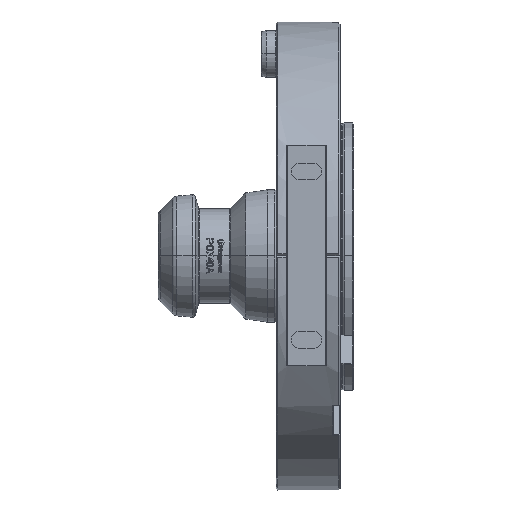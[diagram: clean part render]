
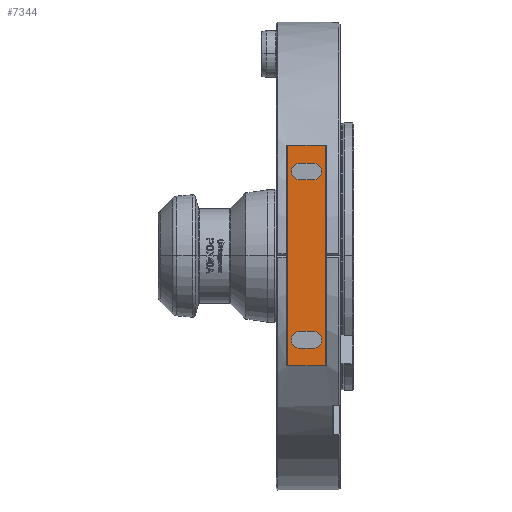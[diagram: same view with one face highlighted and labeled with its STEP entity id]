
A CAD part, top view. The second image highlights one B-rep face of the part: STEP entity #7344.
In plain terms, the highlighted planar face has unit normal (0, 0, 1).
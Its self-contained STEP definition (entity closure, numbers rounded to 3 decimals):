
#163 = ORIENTED_EDGE ( 'NONE', *, *, #14662, .F. ) ;
#318 = EDGE_CURVE ( 'NONE', #1012, #5418, #8596, .T. ) ;
#445 = DIRECTION ( 'NONE',  ( 1., 0., 0. ) ) ;
#918 = EDGE_CURVE ( 'NONE', #2276, #22698, #24420, .T. ) ;
#1012 = VERTEX_POINT ( 'NONE', #17600 ) ;
#1050 = CIRCLE ( 'NONE', #3445, 2.5 ) ;
#1773 = VECTOR ( 'NONE', #4809, 1000. ) ;
#2231 = ORIENTED_EDGE ( 'NONE', *, *, #17161, .F. ) ;
#2276 = VERTEX_POINT ( 'NONE', #12873 ) ;
#2392 = EDGE_CURVE ( 'NONE', #11651, #21416, #8613, .T. ) ;
#2682 = VERTEX_POINT ( 'NONE', #21955 ) ;
#3042 = VERTEX_POINT ( 'NONE', #16586 ) ;
#3367 = CARTESIAN_POINT ( 'NONE',  ( 13.5, 25., 61.3 ) ) ;
#3445 = AXIS2_PLACEMENT_3D ( 'NONE', #23463, #10343, #8096 ) ;
#3548 = EDGE_CURVE ( 'NONE', #23600, #3042, #22952, .T. ) ;
#4285 = ORIENTED_EDGE ( 'NONE', *, *, #20661, .F. ) ;
#4316 = DIRECTION ( 'NONE',  ( -1., 0., 0. ) ) ;
#4809 = DIRECTION ( 'NONE',  ( -1., 0., 0. ) ) ;
#4859 = CIRCLE ( 'NONE', #7635, 2.5 ) ;
#4930 = CARTESIAN_POINT ( 'NONE',  ( 7., -22.5, 61.3 ) ) ;
#5021 = DIRECTION ( 'NONE',  ( -1., 0., 0. ) ) ;
#5141 = CARTESIAN_POINT ( 'NONE',  ( -13.67, -32.75, 61.3 ) ) ;
#5418 = VERTEX_POINT ( 'NONE', #10217 ) ;
#5508 = DIRECTION ( 'NONE',  ( -1., 0., 0. ) ) ;
#5645 = VERTEX_POINT ( 'NONE', #13399 ) ;
#5669 = DIRECTION ( 'NONE',  ( 1., 0., 0. ) ) ;
#5882 = AXIS2_PLACEMENT_3D ( 'NONE', #20295, #7121, #22388 ) ;
#5898 = DIRECTION ( 'NONE',  ( -1., 0., 0. ) ) ;
#5978 = CARTESIAN_POINT ( 'NONE',  ( 14.6, -69.5, 61.3 ) ) ;
#6095 = AXIS2_PLACEMENT_3D ( 'NONE', #16836, #7906, #15236 ) ;
#6383 = EDGE_CURVE ( 'NONE', #5645, #2682, #13963, .T. ) ;
#6602 = EDGE_CURVE ( 'NONE', #21800, #15246, #4859, .T. ) ;
#7121 = DIRECTION ( 'NONE',  ( 0., 0., 1. ) ) ;
#7152 = LINE ( 'NONE', #4930, #1773 ) ;
#7344 = ADVANCED_FACE ( 'NONE', ( #12212, #15947, #11856 ), #8388, .F. ) ;
#7411 = VECTOR ( 'NONE', #10993, 1000. ) ;
#7443 = CARTESIAN_POINT ( 'NONE',  ( 3.4, -69.5, 61.3 ) ) ;
#7520 = CARTESIAN_POINT ( 'NONE',  ( 14.6, -32.75, 61.3 ) ) ;
#7581 = VECTOR ( 'NONE', #13525, 1000. ) ;
#7635 = AXIS2_PLACEMENT_3D ( 'NONE', #20669, #17177, #5898 ) ;
#7906 = DIRECTION ( 'NONE',  ( 0., 0., 1. ) ) ;
#8096 = DIRECTION ( 'NONE',  ( 1., 0., 0. ) ) ;
#8388 = PLANE ( 'NONE',  #17985 ) ;
#8434 = EDGE_CURVE ( 'NONE', #5418, #21800, #21143, .T. ) ;
#8585 = CARTESIAN_POINT ( 'NONE',  ( 7., -22.5, 61.3 ) ) ;
#8596 = LINE ( 'NONE', #20149, #21409 ) ;
#8613 = LINE ( 'NONE', #22018, #20241 ) ;
#9497 = ORIENTED_EDGE ( 'NONE', *, *, #13533, .F. ) ;
#9623 = EDGE_CURVE ( 'NONE', #15246, #11846, #7152, .T. ) ;
#9720 = EDGE_LOOP ( 'NONE', ( #20110, #9497, #24283, #13041 ) ) ;
#10217 = CARTESIAN_POINT ( 'NONE',  ( 11., -27.5, 61.3 ) ) ;
#10343 = DIRECTION ( 'NONE',  ( 0., 0., 1. ) ) ;
#10834 = ORIENTED_EDGE ( 'NONE', *, *, #318, .F. ) ;
#10993 = DIRECTION ( 'NONE',  ( 1., 0., 0. ) ) ;
#11222 = EDGE_LOOP ( 'NONE', ( #13572, #19846, #20952, #2231, #163 ) ) ;
#11564 = VECTOR ( 'NONE', #445, 1000. ) ;
#11596 = CARTESIAN_POINT ( 'NONE',  ( 7., 25., 61.3 ) ) ;
#11651 = VERTEX_POINT ( 'NONE', #23216 ) ;
#11846 = VERTEX_POINT ( 'NONE', #8585 ) ;
#11856 = FACE_OUTER_BOUND ( 'NONE', #9720, .T. ) ;
#12192 = CIRCLE ( 'NONE', #5882, 2.5 ) ;
#12212 = FACE_BOUND ( 'NONE', #11222, .T. ) ;
#12242 = EDGE_CURVE ( 'NONE', #21416, #5645, #14511, .T. ) ;
#12873 = CARTESIAN_POINT ( 'NONE',  ( 3.4, -32.75, 61.3 ) ) ;
#13041 = ORIENTED_EDGE ( 'NONE', *, *, #19853, .F. ) ;
#13399 = CARTESIAN_POINT ( 'NONE',  ( 7., 22.5, 61.3 ) ) ;
#13525 = DIRECTION ( 'NONE',  ( 0., 1., 0. ) ) ;
#13533 = EDGE_CURVE ( 'NONE', #22698, #3042, #22282, .T. ) ;
#13572 = ORIENTED_EDGE ( 'NONE', *, *, #6383, .F. ) ;
#13724 = CARTESIAN_POINT ( 'NONE',  ( 3.4, -69.5, 61.3 ) ) ;
#13963 = LINE ( 'NONE', #21531, #11564 ) ;
#14077 = CARTESIAN_POINT ( 'NONE',  ( 11., -22.5, 61.3 ) ) ;
#14511 = CIRCLE ( 'NONE', #22039, 2.5 ) ;
#14662 = EDGE_CURVE ( 'NONE', #2682, #20946, #12192, .T. ) ;
#14993 = CARTESIAN_POINT ( 'NONE',  ( 7., -25., 61.3 ) ) ;
#15035 = ORIENTED_EDGE ( 'NONE', *, *, #9623, .F. ) ;
#15236 = DIRECTION ( 'NONE',  ( -1., 0., 0. ) ) ;
#15246 = VERTEX_POINT ( 'NONE', #14077 ) ;
#15704 = VECTOR ( 'NONE', #5508, 1000. ) ;
#15775 = CARTESIAN_POINT ( 'NONE',  ( 3.4, 32.75, 61.3 ) ) ;
#15947 = FACE_BOUND ( 'NONE', #21134, .T. ) ;
#16586 = CARTESIAN_POINT ( 'NONE',  ( 14.6, 32.75, 61.3 ) ) ;
#16691 = CARTESIAN_POINT ( 'NONE',  ( 13.5, -25., 61.3 ) ) ;
#16722 = DIRECTION ( 'NONE',  ( -1., 0., 0. ) ) ;
#16836 = CARTESIAN_POINT ( 'NONE',  ( 11., -25., 61.3 ) ) ;
#17161 = EDGE_CURVE ( 'NONE', #20946, #11651, #1050, .T. ) ;
#17177 = DIRECTION ( 'NONE',  ( 0., 0., 1. ) ) ;
#17600 = CARTESIAN_POINT ( 'NONE',  ( 7., -27.5, 61.3 ) ) ;
#17985 = AXIS2_PLACEMENT_3D ( 'NONE', #13724, #21290, #4316 ) ;
#18449 = CARTESIAN_POINT ( 'NONE',  ( -13.67, 32.75, 61.3 ) ) ;
#18539 = DIRECTION ( 'NONE',  ( 1., 0., 0. ) ) ;
#19191 = DIRECTION ( 'NONE',  ( 0., 0., 1. ) ) ;
#19846 = ORIENTED_EDGE ( 'NONE', *, *, #12242, .F. ) ;
#19853 = EDGE_CURVE ( 'NONE', #23600, #2276, #22500, .T. ) ;
#20110 = ORIENTED_EDGE ( 'NONE', *, *, #3548, .T. ) ;
#20149 = CARTESIAN_POINT ( 'NONE',  ( 7., -27.5, 61.3 ) ) ;
#20241 = VECTOR ( 'NONE', #5021, 1000. ) ;
#20295 = CARTESIAN_POINT ( 'NONE',  ( 11., 25., 61.3 ) ) ;
#20661 = EDGE_CURVE ( 'NONE', #11846, #1012, #20891, .T. ) ;
#20669 = CARTESIAN_POINT ( 'NONE',  ( 11., -25., 61.3 ) ) ;
#20891 = CIRCLE ( 'NONE', #24421, 2.5 ) ;
#20946 = VERTEX_POINT ( 'NONE', #3367 ) ;
#20952 = ORIENTED_EDGE ( 'NONE', *, *, #2392, .F. ) ;
#21134 = EDGE_LOOP ( 'NONE', ( #10834, #4285, #15035, #22693, #23696 ) ) ;
#21143 = CIRCLE ( 'NONE', #6095, 2.5 ) ;
#21290 = DIRECTION ( 'NONE',  ( 0., 0., -1. ) ) ;
#21294 = CARTESIAN_POINT ( 'NONE',  ( 7., 27.5, 61.3 ) ) ;
#21409 = VECTOR ( 'NONE', #18539, 1000. ) ;
#21416 = VERTEX_POINT ( 'NONE', #21294 ) ;
#21531 = CARTESIAN_POINT ( 'NONE',  ( 7., 22.5, 61.3 ) ) ;
#21800 = VERTEX_POINT ( 'NONE', #16691 ) ;
#21955 = CARTESIAN_POINT ( 'NONE',  ( 11., 22.5, 61.3 ) ) ;
#22018 = CARTESIAN_POINT ( 'NONE',  ( 7., 27.5, 61.3 ) ) ;
#22039 = AXIS2_PLACEMENT_3D ( 'NONE', #11596, #19191, #5669 ) ;
#22282 = LINE ( 'NONE', #18449, #7411 ) ;
#22388 = DIRECTION ( 'NONE',  ( 1., 0., 0. ) ) ;
#22500 = LINE ( 'NONE', #5141, #15704 ) ;
#22557 = DIRECTION ( 'NONE',  ( 0., 0., 1. ) ) ;
#22574 = DIRECTION ( 'NONE',  ( 0., 1., 0. ) ) ;
#22693 = ORIENTED_EDGE ( 'NONE', *, *, #6602, .F. ) ;
#22698 = VERTEX_POINT ( 'NONE', #15775 ) ;
#22940 = VECTOR ( 'NONE', #22574, 1000. ) ;
#22952 = LINE ( 'NONE', #5978, #7581 ) ;
#23216 = CARTESIAN_POINT ( 'NONE',  ( 11., 27.5, 61.3 ) ) ;
#23463 = CARTESIAN_POINT ( 'NONE',  ( 11., 25., 61.3 ) ) ;
#23600 = VERTEX_POINT ( 'NONE', #7520 ) ;
#23696 = ORIENTED_EDGE ( 'NONE', *, *, #8434, .F. ) ;
#24283 = ORIENTED_EDGE ( 'NONE', *, *, #918, .F. ) ;
#24420 = LINE ( 'NONE', #7443, #22940 ) ;
#24421 = AXIS2_PLACEMENT_3D ( 'NONE', #14993, #22557, #16722 ) ;
